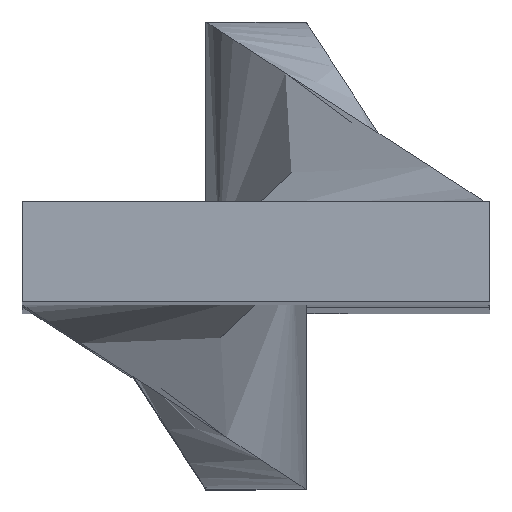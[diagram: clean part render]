
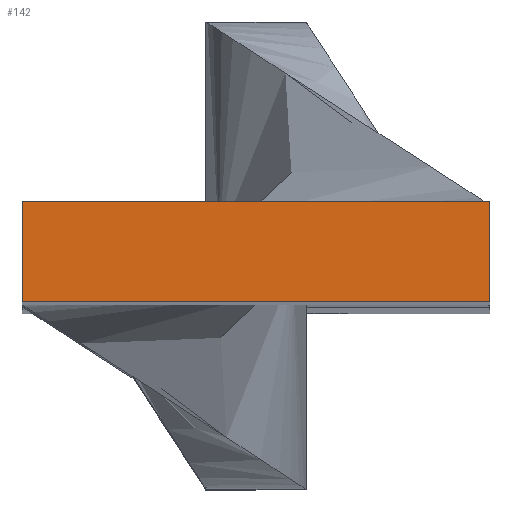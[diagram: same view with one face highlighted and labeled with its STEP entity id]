
A CAD part, top view. The second image highlights one B-rep face of the part: STEP entity #142.
In plain terms, the highlighted planar face has unit normal (0, 0, 1).
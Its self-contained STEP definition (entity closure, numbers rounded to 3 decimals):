
#1 = DIRECTION ( 'NONE',  ( 0., 0., -1. ) ) ;
#5 = DIRECTION ( 'NONE',  ( 1., 0., 0. ) ) ;
#7 = CARTESIAN_POINT ( 'NONE',  ( 0., 0., 208.5 ) ) ;
#9 = ORIENTED_EDGE ( 'NONE', *, *, #492, .F. ) ;
#13 = PLANE ( 'NONE',  #45 ) ;
#16 = CARTESIAN_POINT ( 'NONE',  ( -7., -1.5, 208.5 ) ) ;
#30 = DIRECTION ( 'NONE',  ( 0., 1., 0. ) ) ;
#31 = CARTESIAN_POINT ( 'NONE',  ( -7., -1.5, 208.5 ) ) ;
#45 = AXIS2_PLACEMENT_3D ( 'NONE', #7, #1, #241 ) ;
#142 = ADVANCED_FACE ( 'NONE', ( #625 ), #13, .F. ) ;
#174 = VERTEX_POINT ( 'NONE', #790 ) ;
#182 = LINE ( 'NONE', #578, #240 ) ;
#205 = CARTESIAN_POINT ( 'NONE',  ( -7., 1.5, 208.5 ) ) ;
#240 = VECTOR ( 'NONE', #384, 1000. ) ;
#241 = DIRECTION ( 'NONE',  ( -1., 0., 0. ) ) ;
#262 = LINE ( 'NONE', #747, #703 ) ;
#268 = EDGE_CURVE ( 'NONE', #336, #174, #692, .T. ) ;
#317 = LINE ( 'NONE', #16, #695 ) ;
#336 = VERTEX_POINT ( 'NONE', #714 ) ;
#384 = DIRECTION ( 'NONE',  ( 0., -1., 0. ) ) ;
#492 = EDGE_CURVE ( 'NONE', #174, #535, #182, .T. ) ;
#535 = VERTEX_POINT ( 'NONE', #724 ) ;
#547 = VECTOR ( 'NONE', #5, 1000. ) ;
#569 = ORIENTED_EDGE ( 'NONE', *, *, #715, .F. ) ;
#571 = EDGE_CURVE ( 'NONE', #535, #722, #262, .T. ) ;
#578 = CARTESIAN_POINT ( 'NONE',  ( 7., 1.5, 208.5 ) ) ;
#625 = FACE_OUTER_BOUND ( 'NONE', #791, .T. ) ;
#633 = DIRECTION ( 'NONE',  ( -1., 0., 0. ) ) ;
#692 = LINE ( 'NONE', #205, #547 ) ;
#695 = VECTOR ( 'NONE', #30, 1000. ) ;
#700 = ORIENTED_EDGE ( 'NONE', *, *, #268, .F. ) ;
#703 = VECTOR ( 'NONE', #633, 1000. ) ;
#714 = CARTESIAN_POINT ( 'NONE',  ( -7., 1.5, 208.5 ) ) ;
#715 = EDGE_CURVE ( 'NONE', #722, #336, #317, .T. ) ;
#722 = VERTEX_POINT ( 'NONE', #31 ) ;
#724 = CARTESIAN_POINT ( 'NONE',  ( 7., -1.5, 208.5 ) ) ;
#747 = CARTESIAN_POINT ( 'NONE',  ( 7., -1.5, 208.5 ) ) ;
#756 = ORIENTED_EDGE ( 'NONE', *, *, #571, .F. ) ;
#790 = CARTESIAN_POINT ( 'NONE',  ( 7., 1.5, 208.5 ) ) ;
#791 = EDGE_LOOP ( 'NONE', ( #569, #756, #9, #700 ) ) ;
